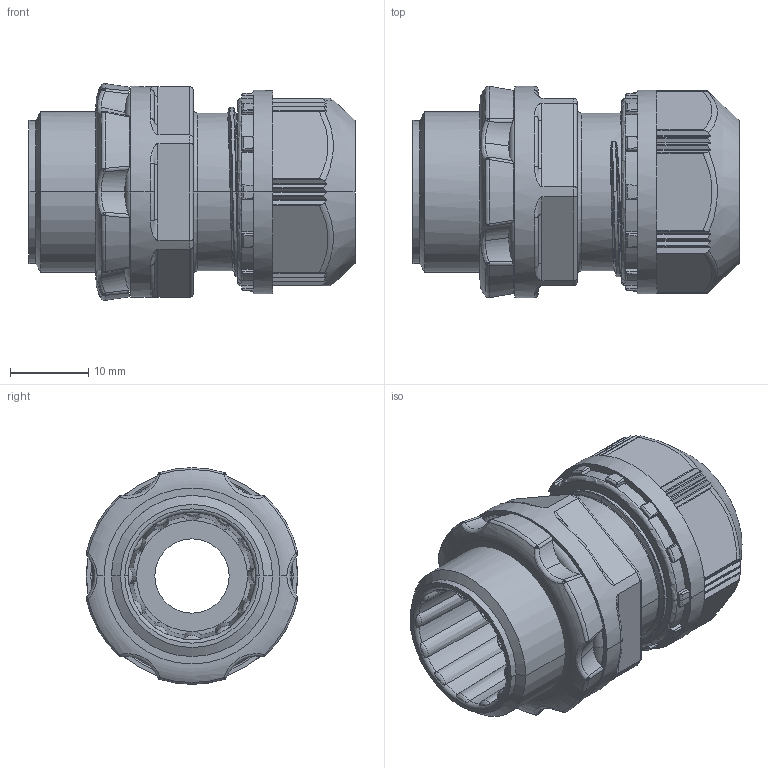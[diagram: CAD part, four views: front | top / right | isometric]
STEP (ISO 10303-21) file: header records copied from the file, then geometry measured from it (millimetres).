
FILE_DESCRIPTION(('CoCreate Modeling STEP Export'),'2;1');
FILE_NAME('H03-0030-CL901_OA-W1609-13L.stp','2011-08-05T 9:58:35',(''),(''),'CoCreate Modeling STEP processor for AP214 (Solid Model)','CoCreate Modeling 17.00A 17-Jun-2010 (C) Parametric Technology GmbH','');
FILE_SCHEMA(('AUTOMOTIVE_DESIGN { 1 0 10303 214 1 1 1 1 }'));
Length unit declared in the file: millimetre
Products named in the file (5): OA-W1609-13L; ゴムブッシュ; ロックナット
Assembly tree (2 placements, depth 2):
  OA-W1609-13L
    OA-W1609-13L
  ゴムブッシュ
  ロックナット
    ロックナット
Bounding box: 41.7 x 27.07 x 27.72 mm (x, y, z)
Volume: 13070.8 mm3; surface area: 9547.7 mm2
Topology: 3 solids, 3 shells, 519 faces, 1373 edges, 870 vertices
Faces by surface type: cylinder 162, plane 154, bspline 99, torus 52, cone 40, extrusion 12
Entity records: 40025 total; most frequent: CARTESIAN_POINT 29224, ORIENTED_EDGE 2746, DIRECTION 1393, EDGE_CURVE 1373, VERTEX_POINT 870, B_SPLINE_CURVE_WITH_KNOTS 555, EDGE_LOOP 535, FACE_OUTER_BOUND 519
